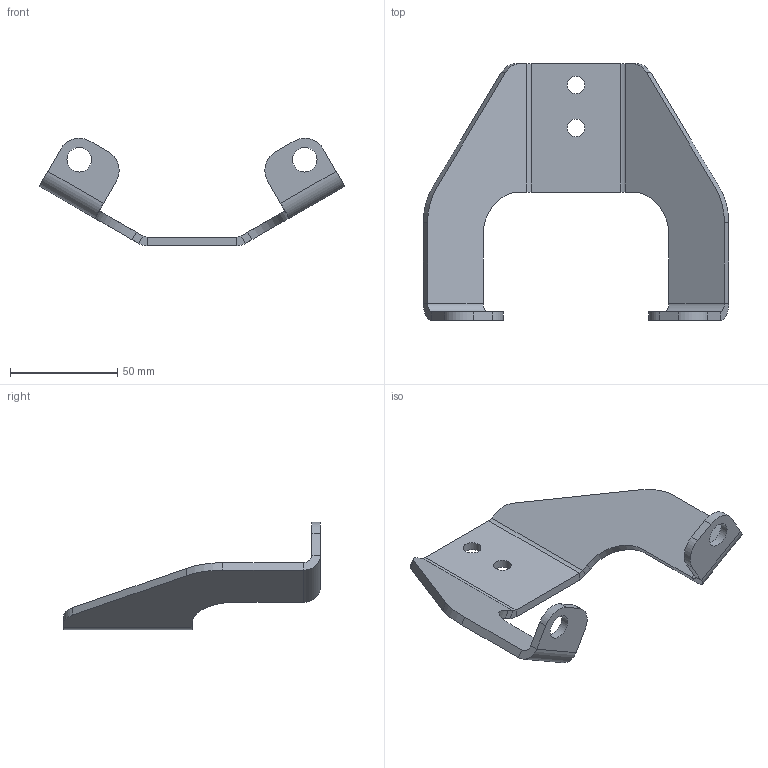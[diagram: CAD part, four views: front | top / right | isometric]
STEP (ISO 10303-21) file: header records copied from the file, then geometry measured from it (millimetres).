
FILE_DESCRIPTION(/* description */ ('FOOT FOR PROFILE 40x40'),/* implementation_level */ '2;1');
FILE_NAME(/* name */ '\\carryline.intra\privat\users\mathias\Desktop\Tillfälliga filer\100-1152.stp',/* time_stamp */ '2018-11-19T09:29:57+01:00',/* author */ ('PL'),/* organization */ ('CARRYLINE'),/* preprocessor_version */ 'ST-DEVELOPER v17',/* originating_system */ 'Autodesk Inventor 2018',/* authorisation */ '');
FILE_SCHEMA (('AUTOMOTIVE_DESIGN { 1 0 10303 214 3 1 1 }'));
Length unit declared in the file: millimetre
Products named in the file (1): 100-1152
Bounding box: 142.63 x 120 x 50.14 mm (x, y, z)
Volume: 44570 mm3; surface area: 25440.8 mm2
Topology: 1 solids, 1 shells, 58 faces, 142 edges, 86 vertices
Faces by surface type: plane 36, cylinder 22
Full cylindrical faces by diameter (mm): 8.2 x2, 11.5 x2
Entity records: 1743 total; most frequent: DIRECTION 310, CARTESIAN_POINT 287, ORIENTED_EDGE 284, EDGE_CURVE 142, AXIS2_PLACEMENT_3D 109, LINE 92, VECTOR 92, VERTEX_POINT 86
